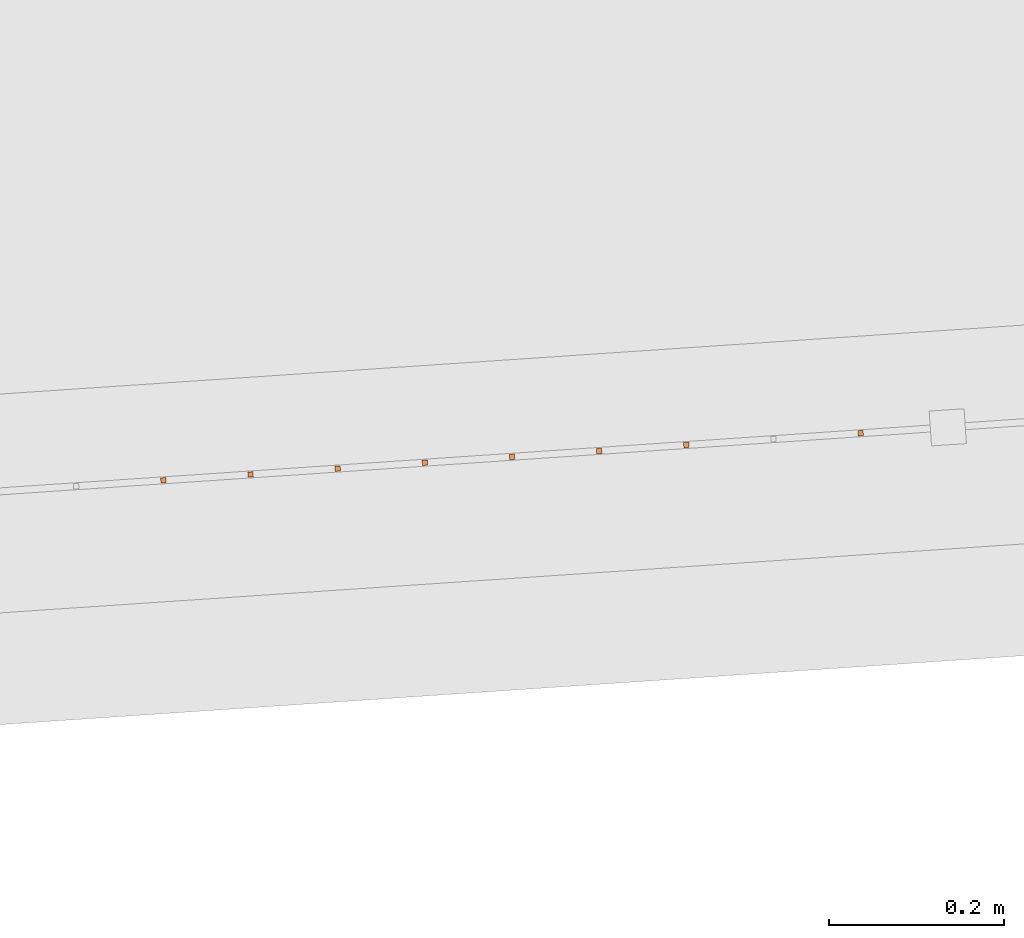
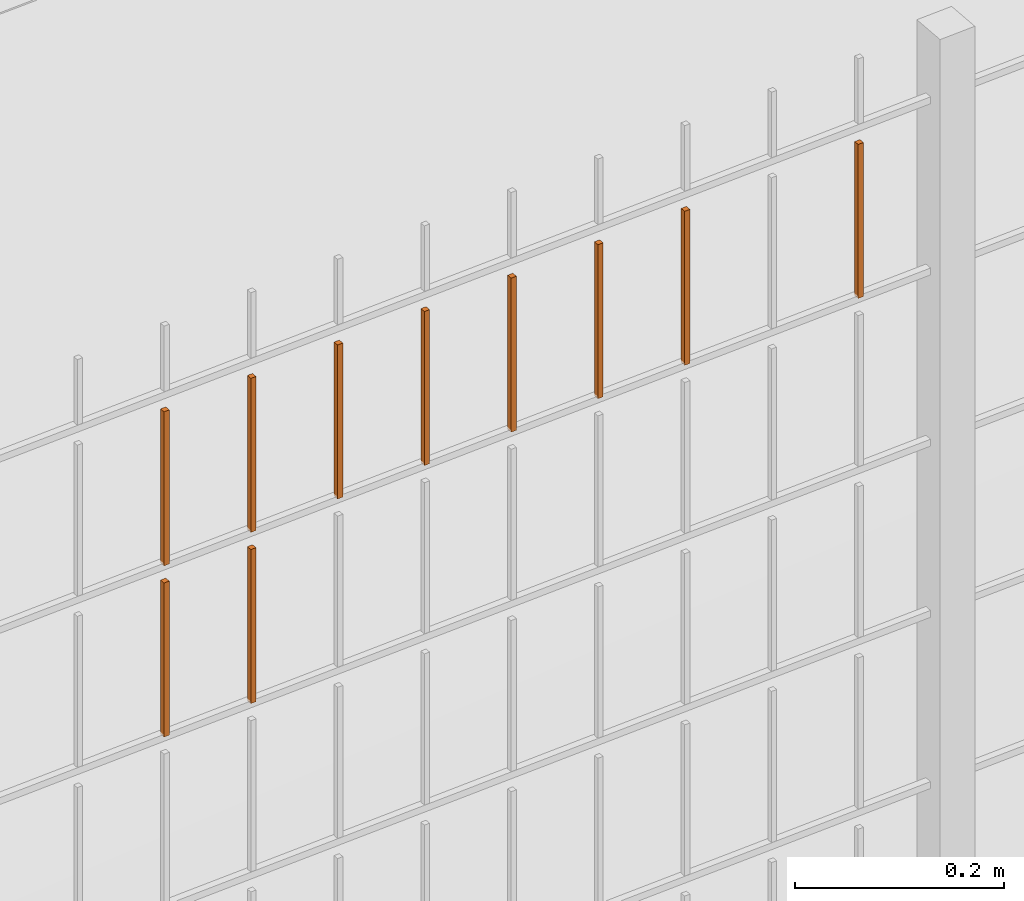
# One storey, part 195 of 1809: 10 proxies, 1 element without a shape of its own.
"""IFC2X3 building model written with IfcOpenShell, lengths in millimetres."""

from ifc_helpers import new_model, entity, si_unit, converted_unit, derived_unit, money_unit, direction, frame, origin_with_axes, place, context, subcontext, project, spatial, faceted_brep, source, transform, mapped, material, type_object, element, aggregate, save


model = new_model("IFC2X3")

# Units and contexts
model_context = context("Model", 3, precision=0.01, world=origin_with_axes(), true_north=direction((0.0, 1.0)))
body_context = subcontext(model_context, "Body", "Model", "MODEL_VIEW")
ifc_project = project(units=[si_unit("LENGTHUNIT", "METRE", prefix="MILLI"), si_unit("AREAUNIT", "SQUARE_METRE"), si_unit("VOLUMEUNIT", "CUBIC_METRE"), converted_unit("PLANEANGLEUNIT", "DEGREE", entity("IfcPlaneAngleMeasure", 0.0174532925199), si_unit("PLANEANGLEUNIT", "RADIAN"), dimensions=[0, 0, 0, 0, 0, 0, 0]), si_unit("SOLIDANGLEUNIT", "STERADIAN"), money_unit("EUR"), converted_unit("TIMEUNIT", "Year", entity("IfcTimeMeasure", 31556926.0), si_unit("TIMEUNIT", "SECOND"), dimensions=[0, 0, 1, 0, 0, 0, 0]), si_unit("MASSUNIT", "GRAM", prefix="KILO"), si_unit("THERMODYNAMICTEMPERATUREUNIT", "DEGREE_CELSIUS"), si_unit("LUMINOUSINTENSITYUNIT", "LUMEN"), si_unit("ENERGYUNIT", "JOULE", prefix="MEGA"), derived_unit("THERMALCONDUCTANCEUNIT", [(si_unit("POWERUNIT", "WATT"), 1), (si_unit("LENGTHUNIT", "METRE"), -1), (si_unit("THERMODYNAMICTEMPERATUREUNIT", "KELVIN"), -1)]), derived_unit("SPECIFICHEATCAPACITYUNIT", [(si_unit("ENERGYUNIT", "JOULE"), 1), (si_unit("MASSUNIT", "GRAM", prefix="KILO"), -1), (si_unit("THERMODYNAMICTEMPERATUREUNIT", "KELVIN"), -1)]), derived_unit("MASSDENSITYUNIT", [(si_unit("MASSUNIT", "GRAM", prefix="KILO"), 1), (si_unit("VOLUMEUNIT", "CUBIC_METRE"), -1)])], contexts=[model_context])

# Site, building, storey
site_placement = place(None, origin_with_axes())
site = spatial("IfcSite", under=ifc_project, at=site_placement, Name="Politse- ja Piirivalveameti ning Päästeameti ühishoone", CompositionType="ELEMENT")
building_placement = place(site_placement, origin_with_axes())
building = spatial("IfcBuilding", under=site, at=building_placement, Name="Politse- ja Piirivalveameti ning Päästeameti ühishoone", CompositionType="ELEMENT")
storey_placement = place(building_placement, origin_with_axes())
storey = spatial("IfcBuildingStorey", under=building, at=storey_placement, Name="Esimene korrus", CompositionType="ELEMENT", Elevation=0.0)

# Proxies
building_element_proxy_type_1 = type_object("IfcBuildingElementProxyType", Name="Railing Type", PredefinedType="NOTDEFINED")
proxy_1_placement = place(storey_placement, frame((89252.001212, -29183.4766571, 203.661247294), z_axis=(0.0, 0.0, 1.0), x_axis=(1.0, 0.0, 0.0)))
proxy_1 = element("IfcBuildingElementProxy", 1, at=proxy_1_placement, inside=storey, type_object=building_element_proxy_type_1, Name="PIIRDEAED")
ifc_material = material(Name="ET-03_Raud")
building_element_proxy_type_2 = type_object("IfcBuildingElementProxyType", Name="IfcBuildingElementProxy", PredefinedType="NOTDEFINED")
shared_shape_1 = source(origin_with_axes(), body_context, "Body", "Brep", [
    faceted_brep([(3.0, 3.0, -0.000752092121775), (-3.0, 3.0, -0.000752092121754), (-3.0, 3.0, 179.99926046), (3.0, 3.0, 179.99926046), (3.0, -3.0, 0.000752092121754), (-3.0, -3.0, 0.000752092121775), (-3.0, -3.0, 180.000764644), (3.0, -3.0, 180.000764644)], [[[0, 1, 2, 3]], [[0, 4, 5, 1]], [[1, 5, 6, 2]], [[3, 2, 6, 7]], [[4, 0, 3, 7]], [[5, 4, 7, 6]]]),
])
proxy_2_placement = place(proxy_1_placement, frame((-67572.713392, -21862.056541, 1810.25548269), z_axis=(0.0, 0.0, 1.0), x_axis=(1.0, 0.0, 0.0)))
proxy_2 = element("IfcBuildingElementProxy", 2, at=proxy_2_placement, type_object=building_element_proxy_type_2, material=ifc_material, Name="BALUSTER - 001", context=body_context, shape_type="MappedRepresentation", body=[
    mapped(shared_shape_1, transform((0.0, 0.0, 0.0), x_axis=(-0.0673926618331, 0.997726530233, 0.0), y_axis=(-0.997726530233, -0.0673926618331, 0.0), z_axis=(0.0, 0.0, 1.0))),
])
shared_shape_2 = source(origin_with_axes(), body_context, "Body", "Brep", [
    faceted_brep([(3.0, 3.0, -0.000752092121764), (-3.0, 3.0, -0.000752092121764), (-3.0, 3.0, 179.99926046), (3.0, 3.0, 179.99926046), (3.0, -3.0, 0.000752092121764), (-3.0, -3.0, 0.000752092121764), (-3.0, -3.0, 180.000764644), (3.0, -3.0, 180.000764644)], [[[0, 1, 2, 3]], [[0, 4, 5, 1]], [[1, 5, 6, 2]], [[3, 2, 6, 7]], [[4, 0, 3, 7]], [[5, 4, 7, 6]]]),
])
proxy_3_placement = place(proxy_1_placement, frame((-67971.8040041, -21889.0136057, 1810.15520374), z_axis=(0.0, 0.0, 1.0), x_axis=(1.0, 0.0, 0.0)))
proxy_3 = element("IfcBuildingElementProxy", 3, at=proxy_3_placement, type_object=building_element_proxy_type_2, material=ifc_material, Name="BALUSTER - 001", context=body_context, shape_type="MappedRepresentation", body=[
    mapped(shared_shape_2, transform((0.0, 0.0, 0.0), x_axis=(-0.0673926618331, 0.997726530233, 0.0), y_axis=(-0.997726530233, -0.0673926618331, 0.0), z_axis=(0.0, 0.0, 1.0))),
])
shared_shape_3 = source(origin_with_axes(), body_context, "Body", "Brep", [
    faceted_brep([(3.0, 3.0, -0.000752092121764), (-3.0, 3.0, -0.000752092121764), (-3.0, 3.0, 179.99926046), (3.0, 3.0, 179.99926046), (3.0, -3.0, 0.000752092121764), (-3.0, -3.0, 0.000752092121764), (-3.0, -3.0, 180.000764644), (3.0, -3.0, 180.000764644)], [[[0, 1, 2, 3]], [[0, 4, 5, 1]], [[1, 5, 6, 2]], [[3, 2, 6, 7]], [[4, 0, 3, 7]], [[5, 4, 7, 6]]]),
])
proxy_4_placement = place(proxy_1_placement, frame((-67971.8040041, -21889.0136057, 1610.15520374), z_axis=(0.0, 0.0, 1.0), x_axis=(1.0, 0.0, 0.0)))
proxy_4 = element("IfcBuildingElementProxy", 4, at=proxy_4_placement, type_object=building_element_proxy_type_2, material=ifc_material, Name="BALUSTER - 001", context=body_context, shape_type="MappedRepresentation", body=[
    mapped(shared_shape_3, transform((0.0, 0.0, 0.0), x_axis=(-0.0673926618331, 0.997726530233, 0.0), y_axis=(-0.997726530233, -0.0673926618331, 0.0), z_axis=(0.0, 0.0, 1.0))),
])
shared_shape_4 = source(origin_with_axes(), body_context, "Body", "Brep", [
    faceted_brep([(3.0, 3.0, -0.000752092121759), (-3.0, 3.0, -0.000752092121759), (-3.0, 3.0, 179.99926046), (3.0, 3.0, 179.99926046), (3.0, -3.0, 0.000752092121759), (-3.0, -3.0, 0.000752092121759), (-3.0, -3.0, 180.000764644), (3.0, -3.0, 180.000764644)], [[[0, 1, 2, 3]], [[0, 4, 5, 1]], [[1, 5, 6, 2]], [[3, 2, 6, 7]], [[4, 0, 3, 7]], [[5, 4, 7, 6]]]),
])
proxy_5_placement = place(proxy_1_placement, frame((-67772.258698, -21875.5350734, 1810.20534322), z_axis=(0.0, 0.0, 1.0), x_axis=(1.0, 0.0, 0.0)))
proxy_5 = element("IfcBuildingElementProxy", 5, at=proxy_5_placement, type_object=building_element_proxy_type_2, material=ifc_material, Name="BALUSTER - 001", context=body_context, shape_type="MappedRepresentation", body=[
    mapped(shared_shape_4, transform((0.0, 0.0, 0.0), x_axis=(-0.0673926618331, 0.997726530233, 0.0), y_axis=(-0.997726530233, -0.0673926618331, 0.0), z_axis=(0.0, 0.0, 1.0))),
])
shared_shape_5 = source(origin_with_axes(), body_context, "Body", "Brep", [
    faceted_brep([(3.0, 3.0, -0.000752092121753), (-3.0, 3.0, -0.000752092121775), (-3.0, 3.0, 179.99926046), (3.0, 3.0, 179.99926046), (3.0, -3.0, 0.000752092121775), (-3.0, -3.0, 0.000752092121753), (-3.0, -3.0, 180.000764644), (3.0, -3.0, 180.000764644)], [[[0, 1, 2, 3]], [[0, 4, 5, 1]], [[1, 5, 6, 2]], [[3, 2, 6, 7]], [[4, 0, 3, 7]], [[5, 4, 7, 6]]]),
])
proxy_6_placement = place(proxy_1_placement, frame((-67472.9407389, -21855.3172748, 1810.28055243), z_axis=(0.0, 0.0, 1.0), x_axis=(1.0, 0.0, 0.0)))
proxy_6 = element("IfcBuildingElementProxy", 6, at=proxy_6_placement, type_object=building_element_proxy_type_2, material=ifc_material, Name="BALUSTER - 001", context=body_context, shape_type="MappedRepresentation", body=[
    mapped(shared_shape_5, transform((0.0, 0.0, 0.0), x_axis=(-0.0673926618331, 0.997726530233, 0.0), y_axis=(-0.997726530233, -0.0673926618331, 0.0), z_axis=(0.0, 0.0, 1.0))),
])
proxy_7_placement = place(proxy_1_placement, frame((-68071.5766571, -21895.7528719, 1810.130134), z_axis=(0.0, 0.0, 1.0), x_axis=(1.0, 0.0, 0.0)))
proxy_7 = element("IfcBuildingElementProxy", 7, at=proxy_7_placement, type_object=building_element_proxy_type_2, material=ifc_material, Name="BALUSTER - 001", context=body_context, shape_type="MappedRepresentation", body=[
    mapped(shared_shape_5, transform((0.0, 0.0, 0.0), x_axis=(-0.0673926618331, 0.997726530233, 0.0), y_axis=(-0.997726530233, -0.0673926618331, 0.0), z_axis=(0.0, 0.0, 1.0))),
])
shared_shape_6 = source(origin_with_axes(), body_context, "Body", "Brep", [
    faceted_brep([(3.0, 3.0, -0.000752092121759), (-3.0, 3.0, -0.000752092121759), (-3.0, 3.0, 179.99926046), (3.0, 3.0, 179.99926046), (3.0, -3.0, 0.000752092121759), (-3.0, -3.0, 0.000752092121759), (-3.0, -3.0, 180.000764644), (3.0, -3.0, 180.000764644)], [[[0, 1, 2, 3]], [[0, 4, 5, 1]], [[1, 5, 6, 2]], [[3, 2, 6, 7]], [[4, 0, 3, 7]], [[5, 4, 7, 6]]]),
])
proxy_8_placement = place(proxy_1_placement, frame((-67273.3954329, -21841.8387425, 1810.3306919), z_axis=(0.0, 0.0, 1.0), x_axis=(1.0, 0.0, 0.0)))
proxy_8 = element("IfcBuildingElementProxy", 8, at=proxy_8_placement, type_object=building_element_proxy_type_2, material=ifc_material, Name="BALUSTER - 001", context=body_context, shape_type="MappedRepresentation", body=[
    mapped(shared_shape_6, transform((0.0, 0.0, 0.0), x_axis=(-0.0673926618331, 0.997726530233, 0.0), y_axis=(-0.997726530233, -0.0673926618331, 0.0), z_axis=(0.0, 0.0, 1.0))),
])
shared_shape_7 = source(origin_with_axes(), body_context, "Body", "Brep", [
    faceted_brep([(3.0, 3.0, -0.000752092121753), (-3.0, 3.0, -0.000752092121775), (-3.0, 3.0, 179.99926046), (3.0, 3.0, 179.99926046), (3.0, -3.0, 0.000752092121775), (-3.0, -3.0, 0.000752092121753), (-3.0, -3.0, 180.000764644), (3.0, -3.0, 180.000764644)], [[[0, 1, 2, 3]], [[0, 4, 5, 1]], [[1, 5, 6, 2]], [[3, 2, 6, 7]], [[4, 0, 3, 7]], [[5, 4, 7, 6]]]),
])
proxy_9_placement = place(proxy_1_placement, frame((-67672.486045, -21868.7958072, 1810.23041295), z_axis=(0.0, 0.0, 1.0), x_axis=(1.0, 0.0, 0.0)))
proxy_9 = element("IfcBuildingElementProxy", 9, at=proxy_9_placement, type_object=building_element_proxy_type_2, material=ifc_material, Name="BALUSTER - 001", context=body_context, shape_type="MappedRepresentation", body=[
    mapped(shared_shape_7, transform((0.0, 0.0, 0.0), x_axis=(-0.0673926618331, 0.997726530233, 0.0), y_axis=(-0.997726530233, -0.0673926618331, 0.0), z_axis=(0.0, 0.0, 1.0))),
])
shared_shape_8 = source(origin_with_axes(), body_context, "Body", "Brep", [
    faceted_brep([(3.0, 3.0, -0.000752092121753), (-3.0, 3.0, -0.000752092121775), (-3.0, 3.0, 179.99926046), (3.0, 3.0, 179.99926046), (3.0, -3.0, 0.000752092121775), (-3.0, -3.0, 0.000752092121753), (-3.0, -3.0, 180.000764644), (3.0, -3.0, 180.000764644)], [[[0, 1, 2, 3]], [[0, 4, 5, 1]], [[1, 5, 6, 2]], [[3, 2, 6, 7]], [[4, 0, 3, 7]], [[5, 4, 7, 6]]]),
])
proxy_10_placement = place(proxy_1_placement, frame((-68071.5766571, -21895.7528719, 1610.130134), z_axis=(0.0, 0.0, 1.0), x_axis=(1.0, 0.0, 0.0)))
proxy_10 = element("IfcBuildingElementProxy", 10, at=proxy_10_placement, type_object=building_element_proxy_type_2, material=ifc_material, Name="BALUSTER - 001", context=body_context, shape_type="MappedRepresentation", body=[
    mapped(shared_shape_8, transform((0.0, 0.0, 0.0), x_axis=(-0.0673926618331, 0.997726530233, 0.0), y_axis=(-0.997726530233, -0.0673926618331, 0.0), z_axis=(0.0, 0.0, 1.0))),
])
shared_shape_9 = source(origin_with_axes(), body_context, "Body", "Brep", [
    faceted_brep([(3.0, 3.0, -0.000752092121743), (-3.0, 3.0, -0.000752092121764), (-3.0, 3.0, 179.99926046), (3.0, 3.0, 179.99926046), (3.0, -3.0, 0.000752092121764), (-3.0, -3.0, 0.000752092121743), (-3.0, -3.0, 180.000764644), (3.0, -3.0, 180.000764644)], [[[0, 1, 2, 3]], [[0, 4, 5, 1]], [[1, 5, 6, 2]], [[3, 2, 6, 7]], [[4, 0, 3, 7]], [[5, 4, 7, 6]]]),
])
proxy_11_placement = place(proxy_1_placement, frame((-67872.031351, -21882.2743396, 1810.18027348), z_axis=(0.0, 0.0, 1.0), x_axis=(1.0, 0.0, 0.0)))
proxy_11 = element("IfcBuildingElementProxy", 11, at=proxy_11_placement, type_object=building_element_proxy_type_2, material=ifc_material, Name="BALUSTER - 001", context=body_context, shape_type="MappedRepresentation", body=[
    mapped(shared_shape_9, transform((0.0, 0.0, 0.0), x_axis=(-0.0673926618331, 0.997726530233, 0.0), y_axis=(-0.997726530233, -0.0673926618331, 0.0), z_axis=(0.0, 0.0, 1.0))),
])
aggregate(proxy_1, [proxy_4, proxy_10, proxy_8, proxy_6, proxy_2, proxy_9, proxy_5, proxy_11, proxy_3, proxy_7])

save(model, "model.ifc")
